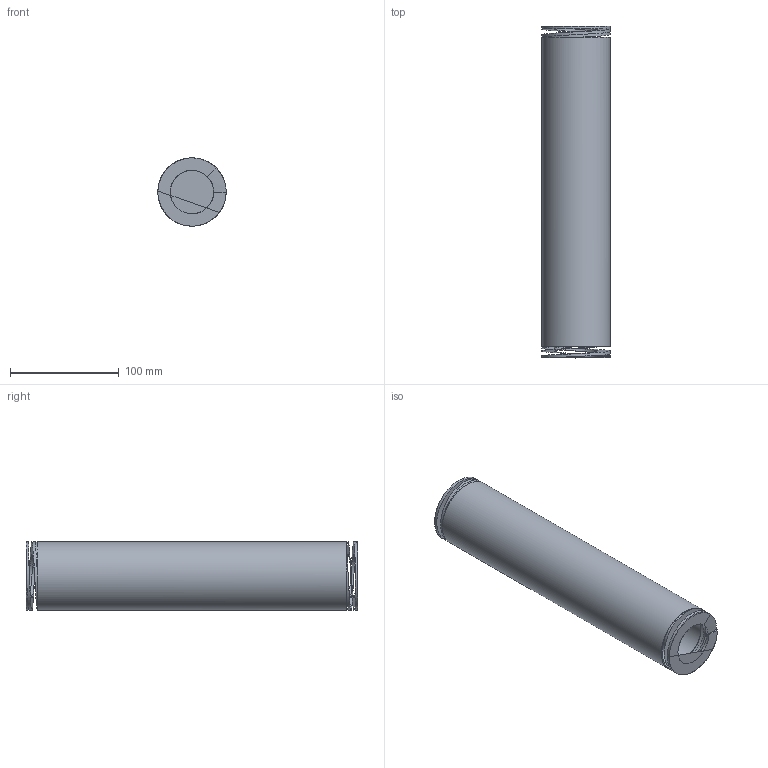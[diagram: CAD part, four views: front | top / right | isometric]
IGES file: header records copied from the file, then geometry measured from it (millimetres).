
Global section: file name: 1L63303; native system: Autodesk Inventor 2026; preprocessor: unknown; author: J. Iwanek; date: 20261007.111120; units: millimetre
Bounding box: 62.71 x 305 x 62.72 mm (x, y, z)
Volume: 545926.6 mm3; surface area: 108798.5 mm2
Topology: 1 solids, 1 shells, 22 faces, 76 edges, 48 vertices
Faces by surface type: bspline 22
